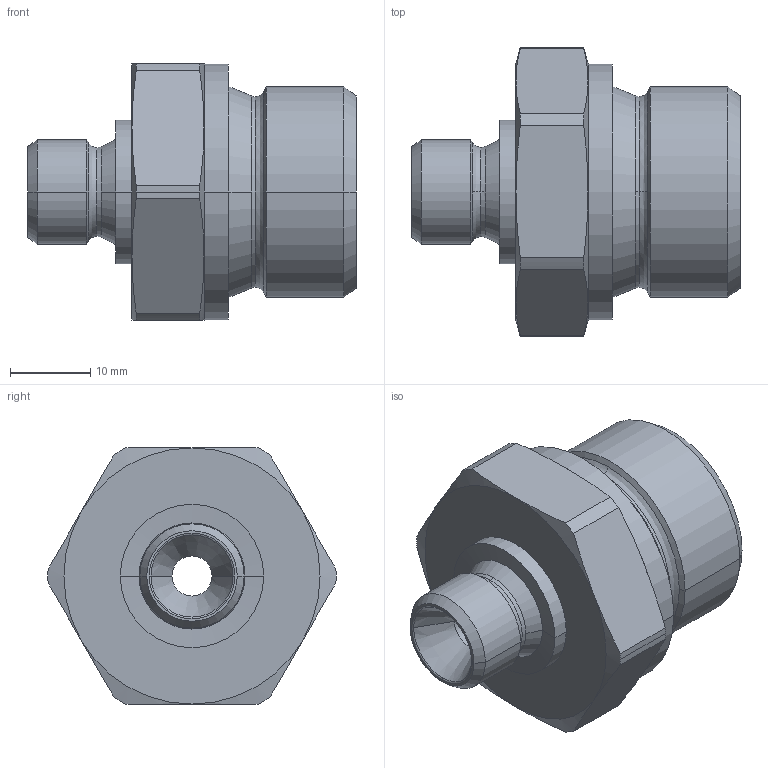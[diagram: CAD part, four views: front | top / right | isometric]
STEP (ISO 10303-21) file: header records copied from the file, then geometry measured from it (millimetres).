
FILE_DESCRIPTION((''),'2;1');
FILE_NAME('300507.stp','2006-09-11T08:09:21',(''),(''),'AutoCAD STEP 2000i','AutoCAD 2000i',', , ');
FILE_SCHEMA(('CONFIG_CONTROL_DESIGN'));
Length unit declared in the file: millimetre
Products named in the file (2): 300507.0; CHIAVE SMUSSATA#0
Assembly tree (1 placements, depth 2):
  300507.0
    CHIAVE SMUSSATA#0
Bounding box: 41 x 36 x 32 mm (x, y, z)
Volume: 14020.3 mm3; surface area: 6226.2 mm2
Topology: 1 solids, 1 shells, 76 faces, 178 edges, 106 vertices
Faces by surface type: cone 34, cylinder 20, plane 10, bspline 8, torus 4
Entity records: 2593 total; most frequent: CARTESIAN_POINT 762, DIRECTION 400, ORIENTED_EDGE 356, EDGE_CURVE 178, AXIS2_PLACEMENT_3D 176, VERTEX_POINT 106, CIRCLE 106, EDGE_LOOP 80
